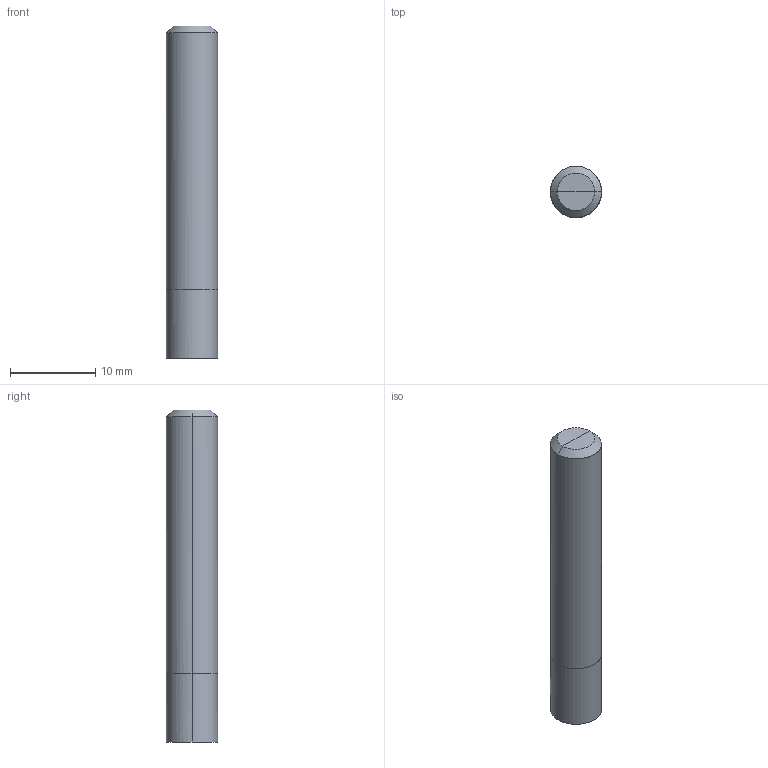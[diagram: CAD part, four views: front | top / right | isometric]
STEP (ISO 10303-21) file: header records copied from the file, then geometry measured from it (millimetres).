
FILE_DESCRIPTION(/* description */ (''),/* implementation_level */ '2;1');
FILE_NAME(/*name*/ '3152-6.0C',/*time_stamp*/'2021-6-21T14:11:47',/*author*/ ('ISBE GmbH'),/*organization*/ ('ISBE GmbH'),/*preprocessor_version*/ 'STEP IO v1.0',/*originating_system*/ '',/*authorisation*/ '');
FILE_SCHEMA (('AUTOMOTIVE_DESIGN'));
Length unit declared in the file: millimetre
Products named in the file (1): Document
Bounding box: 6 x 6 x 39 mm (x, y, z)
Surface area: 839.7 mm2 (no closed solid volume)
Topology: 0 solids, 14 shells, 14 faces, 59 edges, 54 vertices
Faces by surface type: bspline 14
Entity records: 763 total; most frequent: CARTESIAN_POINT 494, VERTEX_POINT 48, EDGE_CURVE 48, ORIENTED_EDGE 48, DIRECTION 16, EDGE_LOOP 14, FACE_OUTER_BOUND 14, ADVANCED_FACE 14
